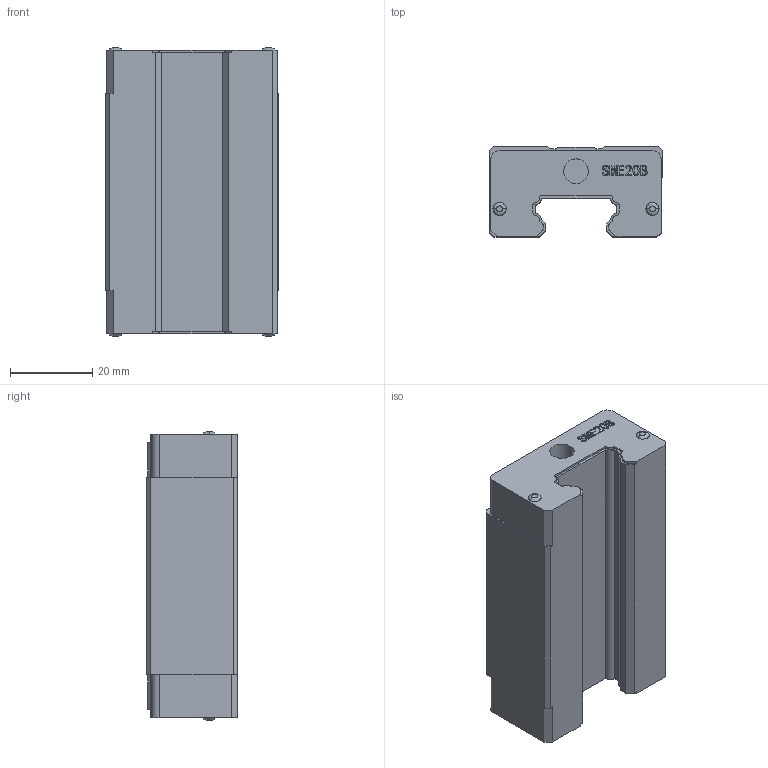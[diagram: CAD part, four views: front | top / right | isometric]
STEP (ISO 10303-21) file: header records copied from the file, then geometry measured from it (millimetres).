
FILE_DESCRIPTION (( 'STEP AP203' ), '1' );
FILE_NAME ('SME20B.stp', '2019-09-21T03:39:52', ( 'pgos' ), ( '' ), 'SwSTEP 2.0', 'SolidWorks 2014', '' );
FILE_SCHEMA (( 'CONFIG_CONTROL_DESIGN' ));
Length unit declared in the file: millimetre
Products named in the file (1): SME20B
Bounding box: 42 x 22 x 70.1 mm (x, y, z)
Volume: 49634.1 mm3; surface area: 12711.5 mm2
Topology: 1 solids, 1 shells, 250 faces, 689 edges, 462 vertices
Faces by surface type: plane 139, cylinder 60, bspline 39, cone 8, torus 4
Entity records: 10514 total; most frequent: CARTESIAN_POINT 4264, ORIENTED_EDGE 1378, DIRECTION 1139, EDGE_CURVE 689, VERTEX_POINT 462, VECTOR 443, LINE 443, AXIS2_PLACEMENT_3D 348
